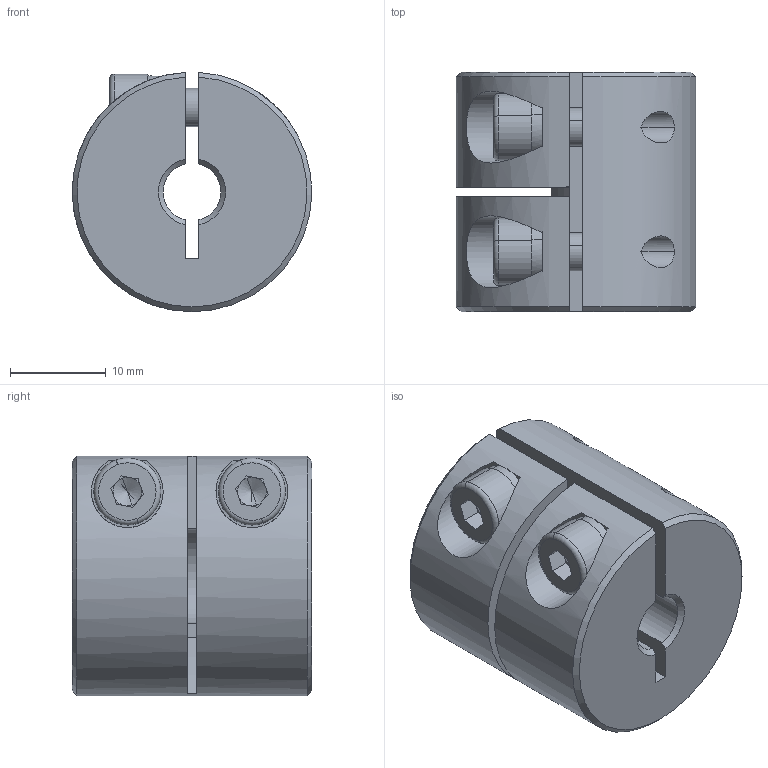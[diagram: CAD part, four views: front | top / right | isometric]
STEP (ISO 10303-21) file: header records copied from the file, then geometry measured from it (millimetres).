
FILE_DESCRIPTION (( 'STEP AP203' ), '1' );
FILE_NAME ('LL-B-D25L25-6-10.STEP', '2021-11-05T06:30:57', ( '' ), ( '' ), 'SwSTEP 2.0', 'SolidWorks 2018', '' );
FILE_SCHEMA (( 'CONFIG_CONTROL_DESIGN' ));
Length unit declared in the file: millimetre
Products named in the file (1): LL-B-D25L25-6-10
Bounding box: 24.99 x 25 x 24.98 mm (x, y, z)
Volume: 10131.4 mm3; surface area: 4959.6 mm2
Topology: 1 solids, 1 shells, 104 faces, 270 edges, 170 vertices
Faces by surface type: plane 52, cylinder 37, cone 11, torus 4
Entity records: 3471 total; most frequent: CARTESIAN_POINT 815, DIRECTION 560, ORIENTED_EDGE 532, EDGE_CURVE 266, AXIS2_PLACEMENT_3D 215, VERTEX_POINT 170, LINE 130, VECTOR 130
